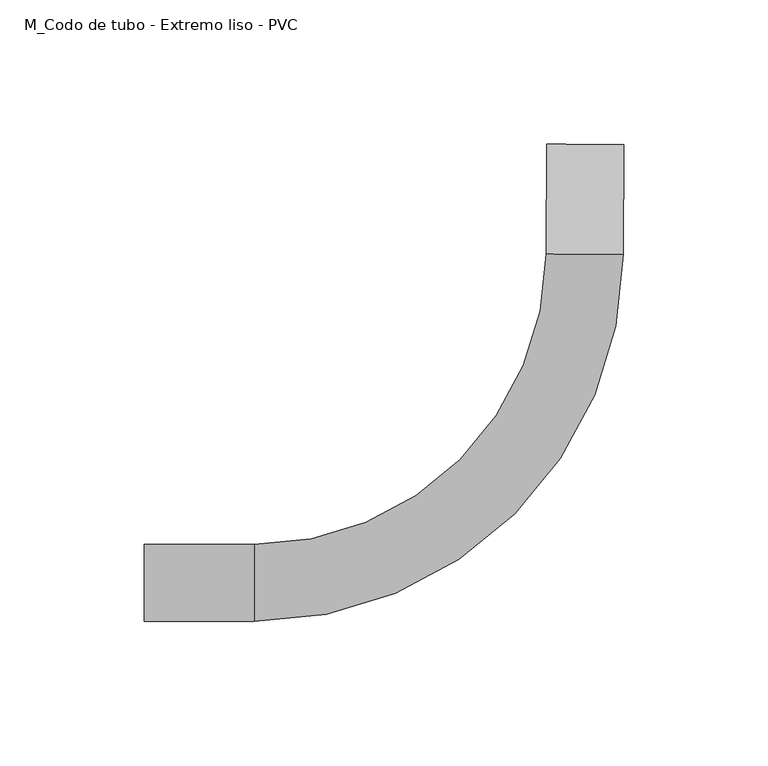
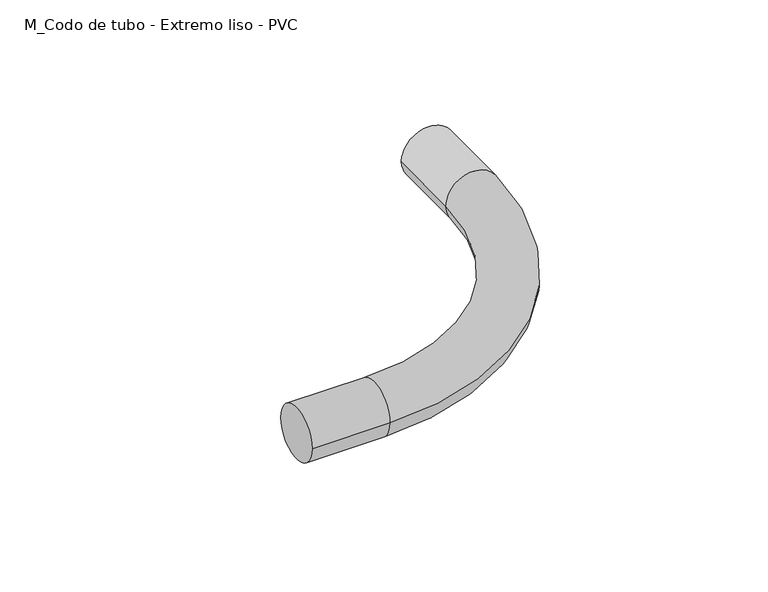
"""IFC4 building model written with IfcOpenShell, lengths in millimetres: cable carrier fitting geometry, M_Codo de tubo - Extremo liso - PVC : CODO ILUMINACION."""

from ifc_helpers import new_model, si_unit, point, frame, origin, place, context, project, spatial, circle_curve, ellipse_curve, trimmed, source, transform, mapped, element, save
from ifc_brep_helpers import plane_surface, cylinder_surface, revolved_surface, advanced_brep


def m_codo_de_tubo_extremo_liso_pvc_a375e3ab(model_context):
    return source(origin(), model_context, "Body", "AdvancedBrep", [
        advanced_brep(
        [(-151.8801274, -13.335, 0.0), (-151.8801274, 13.335, 0.0), (-113.7801274, -13.335, 0.0), (-113.7801274, 13.335, 0.0), (-12.8161765, 113.8397349, 0.0), (13.8535464, 113.7181554, 0.0), (14.0272313, 151.8177595, 0.0), (-12.6424916, 151.939339, 0.0)],
        [
            (0, 1, circle_curve(frame((-151.8801274, 0.0, 0.0), z_axis=(-1.0, 0.0, 0.0), x_axis=(0.0, 1.0, 0.0)), 13.335)),
            (1, 0, circle_curve(frame((-151.8801274, 0.0, 0.0), z_axis=(-1.0, 0.0, 0.0), x_axis=(0.0, 1.0, 0.0)), 13.335)),
            (0, 2),
            (2, 3, circle_curve(frame((-113.7801274, 0.0, 0.0), z_axis=(-1.0, 0.0, 0.0), x_axis=(0.0, 1.0, 0.0)), 13.335)),
            (3, 1),
            (3, 2, circle_curve(frame((-113.7801274, 0.0, 0.0), z_axis=(-1.0, 0.0, 0.0), x_axis=(0.0, 1.0, 0.0)), 13.335)),
            (4, 3, circle_curve(frame((-113.7801274, 114.3, 0.0), z_axis=(0.0, 0.0, -1.0), x_axis=(0.0, -1.0, 0.0)), 100.965)),
            (2, 5, circle_curve(frame((-113.7801274, 114.3, 0.0), z_axis=(0.0, 0.0, 1.0), x_axis=(0.0, -1.0, 0.0)), 127.635)),
            (5, 4, circle_curve(frame((0.5186849, 113.7789451, 0.0), z_axis=(-0.004558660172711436, -0.9999896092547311, 0.0), x_axis=(-0.9999896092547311, 0.004558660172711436, 0.0)), 13.335)),
            (4, 5, circle_curve(frame((0.5186849, 113.7789451, 0.0), z_axis=(-0.004558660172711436, -0.9999896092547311, 0.0), x_axis=(-0.9999896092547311, 0.004558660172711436, 0.0)), 13.335)),
            (6, 7, circle_curve(frame((0.6923699, 151.8785493, 0.0), z_axis=(0.004558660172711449, 0.9999896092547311, 0.0), x_axis=(-0.9999896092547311, 0.004558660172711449, 0.0)), 13.335)),
            (7, 6, circle_curve(frame((0.6923699, 151.8785493, 0.0), z_axis=(0.004558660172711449, 0.9999896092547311, 0.0), x_axis=(-0.9999896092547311, 0.004558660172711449, 0.0)), 13.335)),
            (5, 6),
            (7, 4),
        ],
        [
            plane_surface(frame((-151.8801274, 0.0, 0.0), z_axis=(-1.0, 0.0, 0.0), x_axis=(0.0, 0.0, 1.0))),
            cylinder_surface(frame((-151.8801274, 0.0, 0.0), z_axis=(-1.0, 0.0, 0.0), x_axis=(0.0, 1.0, 0.0)), 13.335),
            revolved_surface(trimmed(ellipse_curve(frame((-113.7801274, 0.0, 0.0), z_axis=(-1.0, 0.0, 0.0), x_axis=(0.0, 1.0, 0.0)), 13.335, 13.335), [point((-113.7801274, -13.335, 0.0))], [point((-113.7801274, 13.335, 0.0))], True, "CARTESIAN"), (-113.7801274, 114.3, 0.0), (0.0, 0.0, 1.0)),
            revolved_surface(trimmed(ellipse_curve(frame((-113.7801274, 0.0, 0.0), z_axis=(-1.0, 0.0, 0.0), x_axis=(0.0, 1.0, 0.0)), 13.335, 13.335), [point((-113.7801274, 13.335, 0.0))], [point((-113.7801274, -13.335, 0.0))], True, "CARTESIAN"), (-113.7801274, 114.3, 0.0), (0.0, 0.0, 1.0)),
            plane_surface(frame((0.6923699, 151.8785493, 0.0), z_axis=(0.00455866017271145, 0.9999896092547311, 0.0), x_axis=(0.0, 0.0, 1.0))),
            cylinder_surface(frame((0.5186849, 113.7789451, 0.0), z_axis=(-0.004558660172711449, -0.9999896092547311, 0.0), x_axis=(-0.9999896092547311, 0.004558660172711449, 0.0)), 13.335),
        ],
        [
            (0, [[1, 2]]),
            (1, [[-1, 3, 4, 5]]),
            (1, [[-2, -5, 6, -3]]),
            (2, [[7, -4, 8, 9]]),
            (3, [[-8, -6, -7, 10]]),
            (4, [[11, 12]]),
            (5, [[-9, 13, -12, 14]]),
            (5, [[-10, -14, -11, -13]]),
        ],
    ),
    ])


if __name__ == "__main__":
    model = new_model("IFC4")
    model_context = context("Model", 3, world=origin())
    ifc_project = project(units=[si_unit("LENGTHUNIT", "METRE", prefix="MILLI")], contexts=[model_context])
    site = spatial("IfcSite", under=ifc_project)
    building = spatial("IfcBuilding", under=site)
    placement = place(None, origin())
    m_codo_de_tubo_extremo_liso_pvc_shape = m_codo_de_tubo_extremo_liso_pvc_a375e3ab(model_context)
    element("IfcCableCarrierFitting", 1, ObjectType="M_Codo de tubo - Extremo liso - PVC : CODO ILUMINACION", at=placement, inside=building, context=model_context, shape_type="MappedRepresentation", body=[
        mapped(m_codo_de_tubo_extremo_liso_pvc_shape, transform((0.0, 0.0, 0.0), x_axis=(1.0, 0.0, 0.0), y_axis=(0.0, 1.0, 0.0), z_axis=(0.0, 0.0, 1.0))),
    ])
    save(model, "model.ifc")
